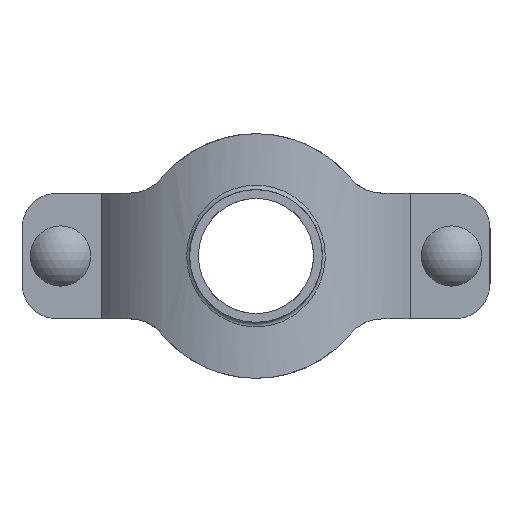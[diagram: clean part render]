
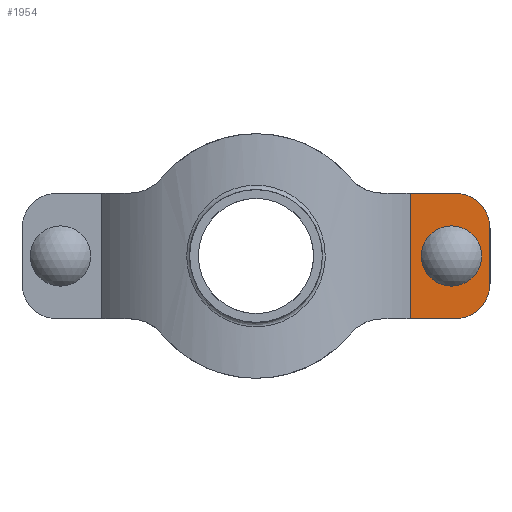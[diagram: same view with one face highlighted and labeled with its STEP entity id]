
A CAD part, front view. The second image highlights one B-rep face of the part: STEP entity #1954.
In plain terms, the highlighted planar face has unit normal (0, -1, 0) as drawn and (0, 1, 0) by its records, which use the part's own axes.
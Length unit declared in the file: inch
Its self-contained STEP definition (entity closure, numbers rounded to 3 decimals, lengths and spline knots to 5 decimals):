
#127=FACE_BOUND('',#347,.T.);
#220=FACE_OUTER_BOUND('',#346,.T.);
#346=EDGE_LOOP('',(#1635,#1636,#1637,#1638,#1639,#1640));
#347=EDGE_LOOP('',(#1641,#1642,#1643,#1644));
#457=LINE('',#3702,#603);
#468=LINE('',#3792,#614);
#472=LINE('',#3803,#618);
#494=LINE('',#4044,#640);
#495=LINE('',#4046,#641);
#496=LINE('',#4050,#642);
#603=VECTOR('',#2573,0.3937);
#614=VECTOR('',#2610,0.3937);
#618=VECTOR('',#2622,0.3937);
#640=VECTOR('',#2704,0.3937);
#641=VECTOR('',#2705,0.3937);
#642=VECTOR('',#2708,0.3937);
#716=CIRCLE('',#2166,0.343);
#718=CIRCLE('',#2170,0.343);
#735=CIRCLE('',#2203,0.63);
#736=CIRCLE('',#2204,0.63);
#860=VERTEX_POINT('',#3699);
#861=VERTEX_POINT('',#3701);
#873=VERTEX_POINT('',#3782);
#874=VERTEX_POINT('',#3783);
#877=VERTEX_POINT('',#3791);
#879=VERTEX_POINT('',#3797);
#911=VERTEX_POINT('',#4043);
#912=VERTEX_POINT('',#4045);
#913=VERTEX_POINT('',#4047);
#914=VERTEX_POINT('',#4049);
#1091=EDGE_CURVE('',#861,#860,#457,.T.);
#1108=EDGE_CURVE('',#873,#874,#716,.T.);
#1112=EDGE_CURVE('',#874,#877,#468,.T.);
#1115=EDGE_CURVE('',#877,#879,#718,.T.);
#1118=EDGE_CURVE('',#879,#873,#472,.T.);
#1162=EDGE_CURVE('',#861,#911,#494,.T.);
#1163=EDGE_CURVE('',#912,#860,#495,.T.);
#1164=EDGE_CURVE('',#913,#912,#735,.T.);
#1165=EDGE_CURVE('',#914,#913,#496,.T.);
#1166=EDGE_CURVE('',#911,#914,#736,.T.);
#1635=ORIENTED_EDGE('',*,*,#1162,.F.);
#1636=ORIENTED_EDGE('',*,*,#1091,.T.);
#1637=ORIENTED_EDGE('',*,*,#1163,.F.);
#1638=ORIENTED_EDGE('',*,*,#1164,.F.);
#1639=ORIENTED_EDGE('',*,*,#1165,.F.);
#1640=ORIENTED_EDGE('',*,*,#1166,.F.);
#1641=ORIENTED_EDGE('',*,*,#1115,.T.);
#1642=ORIENTED_EDGE('',*,*,#1118,.T.);
#1643=ORIENTED_EDGE('',*,*,#1108,.T.);
#1644=ORIENTED_EDGE('',*,*,#1112,.T.);
#1751=PLANE('',#2202);
#1954=ADVANCED_FACE('',(#220,#127),#1751,.F.);
#2166=AXIS2_PLACEMENT_3D('',#3784,#2602,#2603);
#2170=AXIS2_PLACEMENT_3D('',#3798,#2615,#2616);
#2202=AXIS2_PLACEMENT_3D('',#4042,#2702,#2703);
#2203=AXIS2_PLACEMENT_3D('',#4048,#2706,#2707);
#2204=AXIS2_PLACEMENT_3D('',#4051,#2709,#2710);
#2573=DIRECTION('',(0.,0.,-1.));
#2602=DIRECTION('center_axis',(0.,-1.,0.));
#2603=DIRECTION('ref_axis',(-1.,0.,0.));
#2610=DIRECTION('',(0.,0.,-1.));
#2615=DIRECTION('center_axis',(0.,-1.,0.));
#2616=DIRECTION('ref_axis',(1.,0.,0.));
#2622=DIRECTION('',(0.,0.,1.));
#2702=DIRECTION('center_axis',(0.,-1.,0.));
#2703=DIRECTION('ref_axis',(1.,0.,0.));
#2704=DIRECTION('',(-1.,0.,0.));
#2705=DIRECTION('',(1.,0.,0.));
#2706=DIRECTION('center_axis',(0.,-1.,0.));
#2707=DIRECTION('ref_axis',(0.,0.,-1.));
#2708=DIRECTION('',(0.,0.,-1.));
#2709=DIRECTION('center_axis',(0.,-1.,0.));
#2710=DIRECTION('ref_axis',(-1.,0.,0.));
#3699=CARTESIAN_POINT('',(-2.7619,2.,-1.125));
#3701=CARTESIAN_POINT('',(-2.7619,2.,1.125));
#3702=CARTESIAN_POINT('',(-2.7619,2.,0.));
#3782=CARTESIAN_POINT('',(-3.157,2.,0.0945));
#3783=CARTESIAN_POINT('',(-3.843,2.,0.0945));
#3784=CARTESIAN_POINT('Origin',(-3.5,2.,0.0945));
#3791=CARTESIAN_POINT('',(-3.843,2.,-0.0945));
#3792=CARTESIAN_POINT('',(-3.843,2.,-0.04725));
#3797=CARTESIAN_POINT('',(-3.157,2.,-0.0945));
#3798=CARTESIAN_POINT('Origin',(-3.5,2.,-0.0945));
#3803=CARTESIAN_POINT('',(-3.157,2.,0.04725));
#4042=CARTESIAN_POINT('Origin',(-4.19,2.,0.));
#4043=CARTESIAN_POINT('',(-3.56,2.,1.125));
#4044=CARTESIAN_POINT('',(-3.875,2.,1.125));
#4045=CARTESIAN_POINT('',(-3.56,2.,-1.125));
#4046=CARTESIAN_POINT('',(-3.22725,2.,-1.125));
#4047=CARTESIAN_POINT('',(-4.19,2.,-0.495));
#4048=CARTESIAN_POINT('Origin',(-3.56,2.,-0.495));
#4049=CARTESIAN_POINT('',(-4.19,2.,0.495));
#4050=CARTESIAN_POINT('',(-4.19,2.,-0.2475));
#4051=CARTESIAN_POINT('Origin',(-3.56,2.,0.495));
